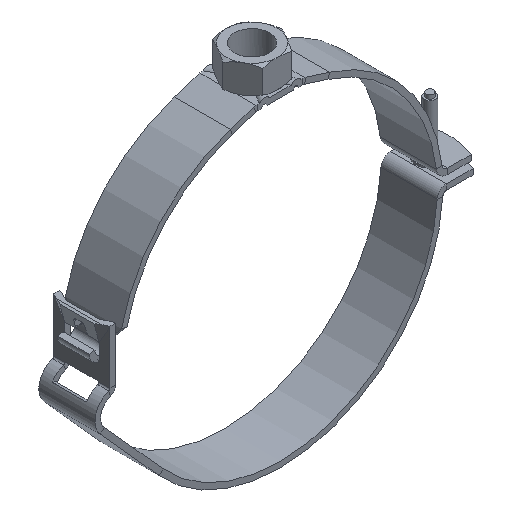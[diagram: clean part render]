
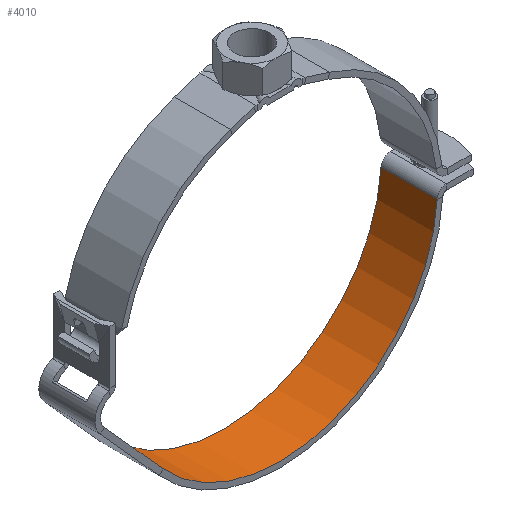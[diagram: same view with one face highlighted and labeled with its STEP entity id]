
A CAD part, isometric view. The second image highlights one B-rep face of the part: STEP entity #4010.
In plain terms, the highlighted cylindrical face has radius 84 mm (diameter 168 mm), a partial arc.
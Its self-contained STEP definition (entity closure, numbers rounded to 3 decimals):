
#126=CYLINDRICAL_SURFACE('',#4291,84.);
#227=FACE_OUTER_BOUND('',#453,.T.);
#453=EDGE_LOOP('',(#2662,#2663,#2664,#2665));
#668=CIRCLE('',#4292,84.);
#669=CIRCLE('',#4293,84.);
#851=LINE('',#6034,#1221);
#859=LINE('',#6209,#1229);
#1221=VECTOR('',#4801,1.);
#1229=VECTOR('',#4825,1.);
#1587=VERTEX_POINT('',#6032);
#1588=VERTEX_POINT('',#6033);
#1593=VERTEX_POINT('',#6205);
#1594=VERTEX_POINT('',#6207);
#1983=EDGE_CURVE('',#1587,#1588,#851,.T.);
#1996=EDGE_CURVE('',#1588,#1593,#668,.T.);
#1997=EDGE_CURVE('',#1587,#1594,#669,.T.);
#1998=EDGE_CURVE('',#1594,#1593,#859,.F.);
#2662=ORIENTED_EDGE('',*,*,#1996,.F.);
#2663=ORIENTED_EDGE('',*,*,#1983,.F.);
#2664=ORIENTED_EDGE('',*,*,#1997,.T.);
#2665=ORIENTED_EDGE('',*,*,#1998,.T.);
#4010=ADVANCED_FACE('',(#227),#126,.F.);
#4291=AXIS2_PLACEMENT_3D('',#6204,#4819,#4820);
#4292=AXIS2_PLACEMENT_3D('',#6206,#4821,#4822);
#4293=AXIS2_PLACEMENT_3D('',#6208,#4823,#4824);
#4801=DIRECTION('',(0.,1.,0.));
#4819=DIRECTION('center_axis',(0.,-1.,0.));
#4820=DIRECTION('ref_axis',(0.332,0.,-0.943));
#4821=DIRECTION('center_axis',(0.,-1.,0.));
#4822=DIRECTION('ref_axis',(-1.,0.,0.));
#4823=DIRECTION('center_axis',(0.,-1.,0.));
#4824=DIRECTION('ref_axis',(-1.,0.,0.));
#4825=DIRECTION('',(0.,-1.,0.));
#6032=CARTESIAN_POINT('',(-62.39,-15.,-56.245));
#6033=CARTESIAN_POINT('',(-62.39,15.,-56.245));
#6034=CARTESIAN_POINT('',(-62.39,0.,-56.245));
#6204=CARTESIAN_POINT('Origin',(0.,-0.511,0.));
#6205=CARTESIAN_POINT('',(83.867,15.,-4.719));
#6206=CARTESIAN_POINT('Origin',(0.,15.,0.));
#6207=CARTESIAN_POINT('',(83.867,-15.,-4.719));
#6208=CARTESIAN_POINT('Origin',(0.,-15.,0.));
#6209=CARTESIAN_POINT('',(83.867,0.,-4.719));
